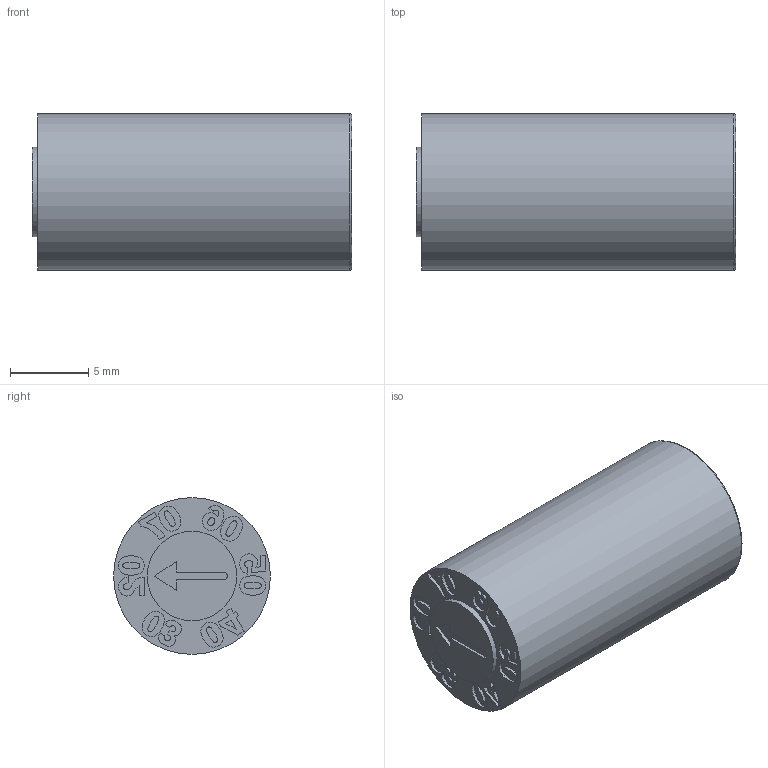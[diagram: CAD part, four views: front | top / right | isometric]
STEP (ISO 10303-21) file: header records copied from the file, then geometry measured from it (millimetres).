
FILE_DESCRIPTION( ( 'STEP AP203' ), ' ' );
FILE_NAME( 'p:/temp/worker_125/3512_3620/app_90_12017012413464220405004260eae72_000000_00_00_000000/format_0/OYN 10(0.35).stp', '2017-01-24T12:46:42', ( '' ), ( '' ), ' ', 'PARTsolutions', ' ' );
FILE_SCHEMA( ( 'CONFIG_CONTROL_DESIGN' ) );
Length unit declared in the file: millimetre
Products named in the file (3): OYN 10(0.35); _OYN 10(0.35)1; _OYN 10(0.35)2
Assembly tree (2 placements, depth 2):
  OYN 10(0.35)
    _OYN 10(0.35)1
    _OYN 10(0.35)2
Bounding box: 20.35 x 10 x 10 mm (x, y, z)
Volume: 1398.3 mm3; surface area: 1238.4 mm2
Topology: 2 solids, 2 shells, 168 faces, 416 edges, 276 vertices
Faces by surface type: cylinder 86, plane 78, cone 3, torus 1
Full cylindrical faces by diameter (mm): 2.121 x1, 2.5 x1, 4.134 x1, 5.7 x2, 10 x1
Entity records: 5106 total; most frequent: DIRECTION 924, CARTESIAN_POINT 853, ORIENTED_EDGE 812, EDGE_CURVE 406, AXIS2_PLACEMENT_3D 347, VERTEX_POINT 276, LINE 230, VECTOR 230
